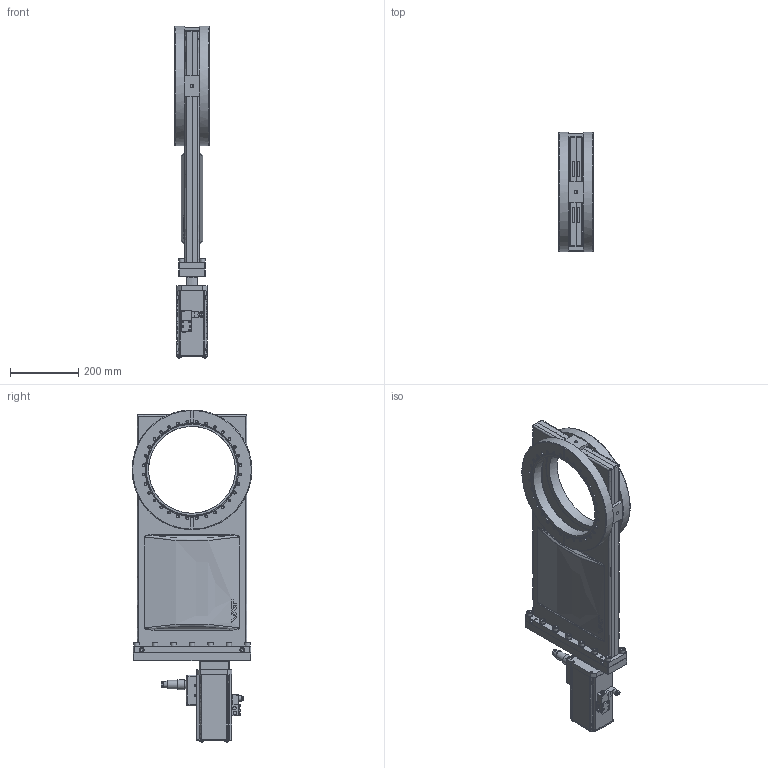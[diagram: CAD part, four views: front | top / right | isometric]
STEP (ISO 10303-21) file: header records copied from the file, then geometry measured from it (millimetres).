
FILE_DESCRIPTION((''),'2;1');
FILE_NAME('O:\MT\MT\Systeme\Cad\Datenexporte\www_vat_ch\206851.stp','2005-08-08T08:14:56',('User'),('SDRC'),'I-DEAS Master Series 9','UNIX','Yes');
FILE_SCHEMA(('CONFIG_CONTROL_DESIGN'));
Length unit declared in the file: millimetre
Assembly tree (76 placements, depth 0):
Bounding box: 100 x 350 x 971.5 mm (x, y, z)
Volume: 4673479.4 mm3; surface area: 1676612.2 mm2
Topology: 97 solids, 99 shells, 2159 faces, 4905 edges, 3200 vertices
Faces by surface type: bspline 2159
Entity records: 50366 total; most frequent: CARTESIAN_POINT 26295, ORIENTED_EDGE 6034, EDGE_CURVE 3015, VERTEX_POINT 1962, EDGE_LOOP 1697, FACE_OUTER_BOUND 1314, ADVANCED_FACE 1314, QUASI_UNIFORM_CURVE 1015
